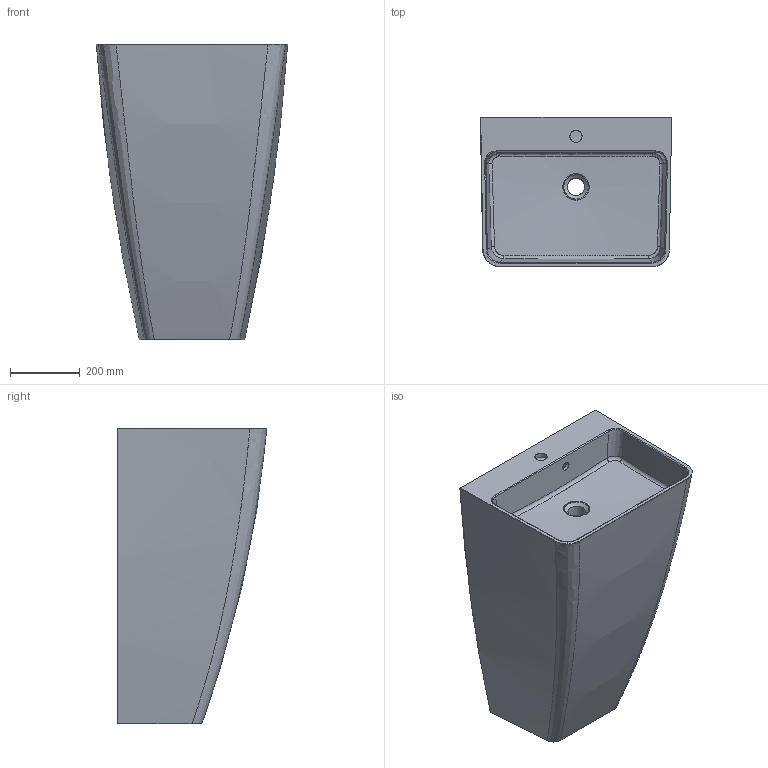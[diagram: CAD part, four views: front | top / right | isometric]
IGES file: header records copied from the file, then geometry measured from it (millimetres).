
Global section: file name: 5902539825831_igs; native system: Autodesk Inventor 2020; preprocessor: unknown; date: 20200727.142511; units: millimetre
Bounding box: 549.93 x 429.9 x 850 mm (x, y, z)
Surface area: 2311069.4 mm2 (no closed solid volume)
Topology: 0 solids, 0 shells, 57 faces, 2941 edges, 2933 vertices
Faces by surface type: bspline 50, revolution 7
